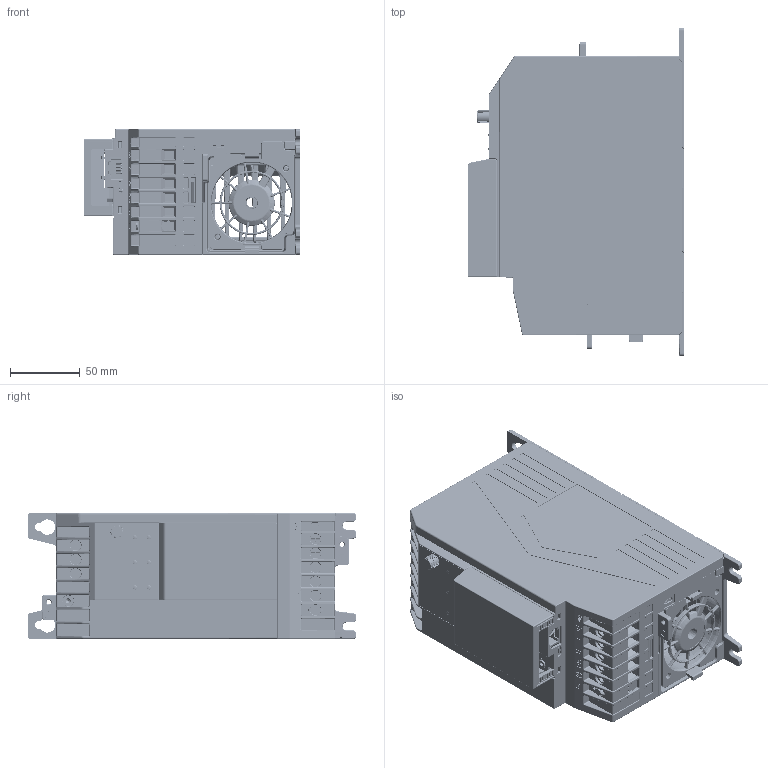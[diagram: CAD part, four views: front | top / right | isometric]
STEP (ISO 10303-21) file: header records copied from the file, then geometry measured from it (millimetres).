
FILE_DESCRIPTION((''),'2;1');
FILE_NAME('GD27-C','2024-07-11T18:13:40',('Administrator'),(''),'CREO PARAMETRIC BY PTC INC, 2019080','CREO PARAMETRIC BY PTC INC, 2019080','');
FILE_SCHEMA(('CONFIG_CONTROL_DESIGN'));
Products named in the file (1): GD27-C
Bounding box: 155 x 235 x 90 mm (x, y, z)
Volume: 63359.2 mm3; surface area: 485298.3 mm2
Topology: 3 solids, 33 shells, 10291 faces, 28115 edges, 17914 vertices
Faces by surface type: plane 5285, cylinder 2910, bspline 684, torus 683, cone 368, extrusion 282, sphere 79
Entity records: 371090 total; most frequent: CARTESIAN_POINT 115975, ORIENTED_EDGE 55609, DIRECTION 49330, EDGE_CURVE 28004, VERTEX_POINT 17914, VECTOR 17850, LINE 17568, AXIS2_PLACEMENT_3D 15740
